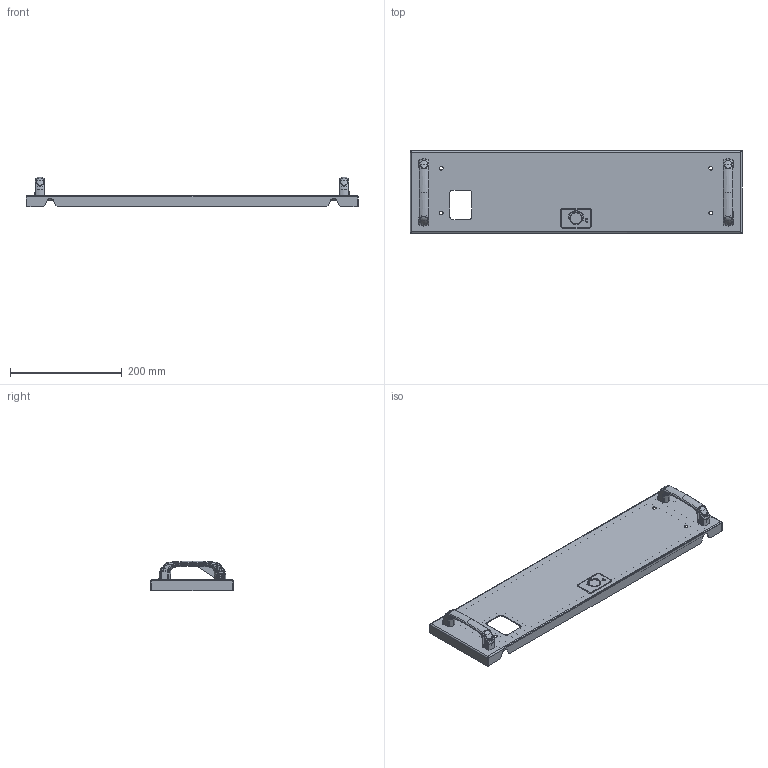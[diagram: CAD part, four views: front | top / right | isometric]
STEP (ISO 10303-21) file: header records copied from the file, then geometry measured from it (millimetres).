
FILE_DESCRIPTION(('CAx-IF Rec.Pracs.---Model Styling and Organization---1.2---2011-12-15','CAx-IF Rec.Pracs.---Geometric and Assembly Validation Properties---4.1---2014-06-16','CAx-IF Rec.Pracs.---PMI Polyline Presentation---2.0---2013-05-24'),'2;1');
FILE_NAME('R5M2W3M1BF.stp','2021-05-05T12:12:22+03:00',(''),(''),'STEP Interface 4.4 by CT CoreTechnologie','3D_Evolution4.4 by CT CoreTechnologie','');
FILE_SCHEMA(('AUTOMOTIVE_DESIGN { 1 0 10303 214 1 1 1 1 }'));
Length unit declared in the file: millimetre
Products named in the file (17): R5M2W3M1BF; Ì5-GOST 5915-70 (DIN 934)_straight; 4.444.001(1); PR.DT477.100.02; PR.DT477.100.01; AC00C148_AC00C148; RB.1166.00.00.0 ÑÁ_-00; PF 7x14 RAMmcc 2.0_3å1; AC00C061_AC00C061; Ì6õ12-A5100231_straight; RB.1166.00.05.0; PF 3.5x7 RAMmcc 2.0_00; RB.1166.00.01.0_-00; RB.1166.00.02.0_¢ à 1; RB.1166.00.03.0_-00; RB.1166.00.04.0_-00; 4.444.001(2)
Assembly tree (25 placements, depth 3):
  R5M2W3M1BF
    Ì5-GOST 5915-70 (DIN 934)_straight  x4
    4.444.001(1)
      PR.DT477.100.02  x2
      PR.DT477.100.01
    AC00C148_AC00C148  x2
    RB.1166.00.00.0 ÑÁ_-00
      PF 7x14 RAMmcc 2.0_3å1
      AC00C061_AC00C061
      Ì6õ12-A5100231_straight
      RB.1166.00.05.0  x2
      PF 3.5x7 RAMmcc 2.0_00
      RB.1166.00.01.0_-00
      RB.1166.00.02.0_¢ à 1
      RB.1166.00.03.0_-00
      RB.1166.00.04.0_-00
    4.444.001(2)
      PR.DT477.100.02  x2
      PR.DT477.100.01
Bounding box: 594 x 147 x 52.94 mm (x, y, z)
Surface area: 318964.7 mm2 (no closed solid volume)
Topology: 0 solids, 26 shells, 2527 faces, 6112 edges, 3601 vertices
Faces by surface type: bspline 1488, plane 702, cylinder 337
Entity records: 60865 total; most frequent: CARTESIAN_POINT 32293, ORIENTED_EDGE 6096, DIRECTION 5492, EDGE_CURVE 3048, AXIS2_PLACEMENT_3D 2114, VERTEX_POINT 1829, CIRCLE 1531, EDGE_LOOP 1329
